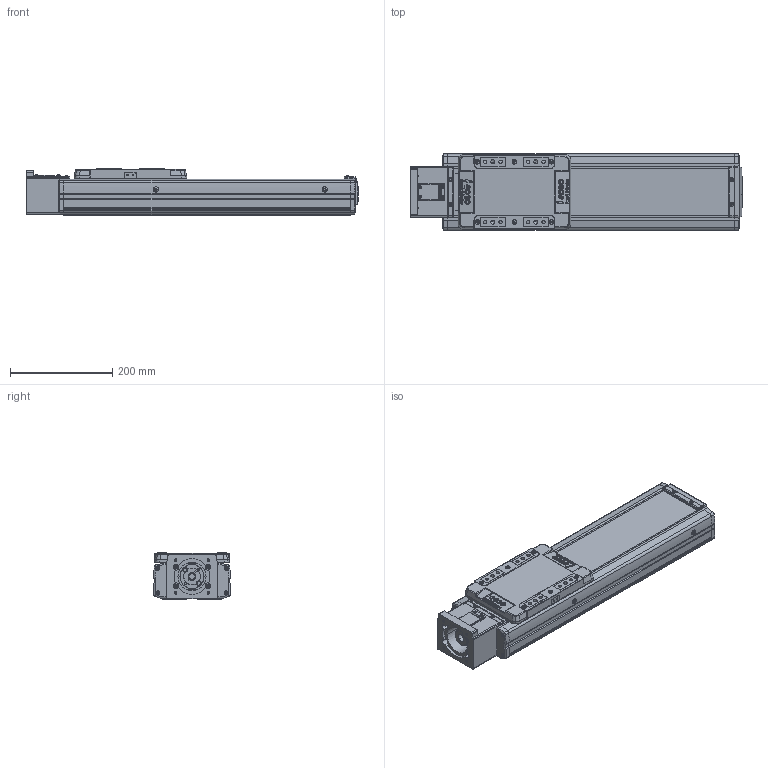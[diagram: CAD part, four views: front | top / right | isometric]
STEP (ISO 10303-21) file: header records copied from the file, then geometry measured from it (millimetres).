
FILE_DESCRIPTION(('STEP AP214'),'1');
FILE_NAME('Z:/Web/3D/SAN150/2013.04 (STP.)/SAN150ㅁㅁ-300S.stp','2013-05-08T02:06:13',(' '),(' '),'Spatial InterOp 3D',' ',' ');
FILE_SCHEMA(('automotive_design'));
Length unit declared in the file: millimetre
Products named in the file (75): SLBL-SAN150; SLCV-SAN150; FHCS M4.0 x 8.0; BHCS M4.0 x 10.0; SFX-SAN150; RRCV-SAN150; FRBL-SAN150; Spacer; RN15; FRCV-SAN150; Screw 20; BASE-SAN150-000L ; SUS COVER; 스크루 : Round - M5.0 x 6.0; BHCS M3.0 x 6.0; SSFX-SAN65; CPLCV-SAN65; SDWA47C(2); SDWA47C(3-1); SDWA47C(3); SDWA47C(1); SDWA47C(4); SDWA47C(5); MTHZ-SAN150-80
Bounding box: 649 x 150 x 90 mm (x, y, z)
Volume: 4059902.8 mm3; surface area: 787341.8 mm2
Topology: 75 solids, 75 shells, 2807 faces, 7299 edges, 4713 vertices
Faces by surface type: plane 1202, cylinder 1147, cone 357, sphere 56, bspline 29, torus 16
Entity records: 113298 total; most frequent: CARTESIAN_POINT 18336, DIRECTION 15895, ORIENTED_EDGE 14390, EDGE_CURVE 7195, AXIS2_PLACEMENT_3D 5987, VERTEX_POINT 4713, LINE 3921, VECTOR 3921
